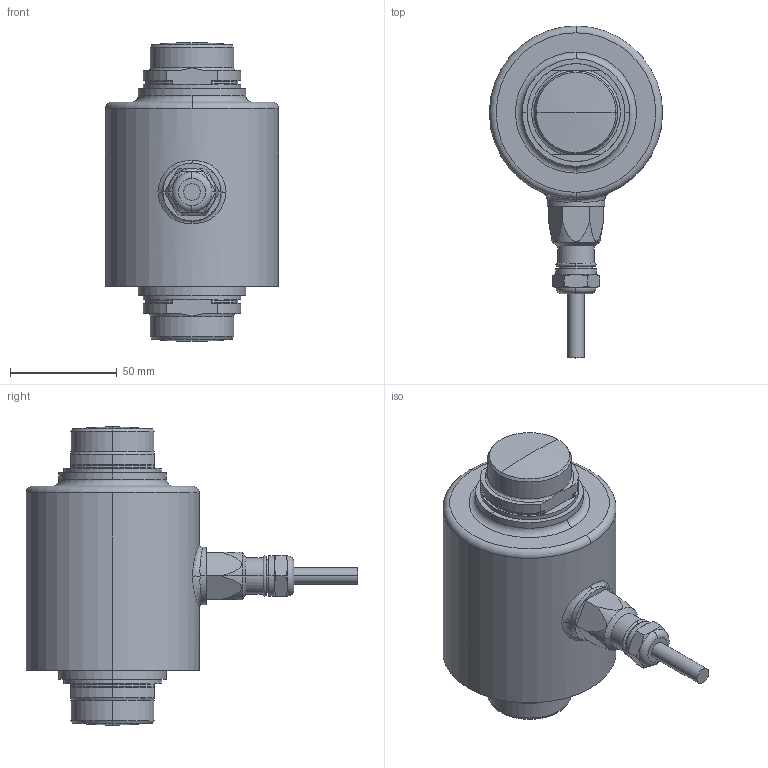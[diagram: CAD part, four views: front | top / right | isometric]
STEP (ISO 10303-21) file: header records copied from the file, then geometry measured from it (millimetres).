
FILE_DESCRIPTION (( 'STEP AP214' ), '1' );
FILE_NAME ('SM63-30t.STEP', '2010-12-16T14:53:48', ( 'D. Hüttmann' ), ( 'Microsoft' ), 'SwSTEP 2.0', 'SolidWorks 2010', '' );
FILE_SCHEMA (( 'AUTOMOTIVE_DESIGN' ));
Length unit declared in the file: millimetre
Products named in the file (1): SM63-30t
Bounding box: 81 x 155.17 x 139.7 mm (x, y, z)
Volume: 525778.5 mm3; surface area: 43596.2 mm2
Topology: 1 solids, 1 shells, 131 faces, 318 edges, 198 vertices
Faces by surface type: plane 45, cylinder 34, torus 22, cone 22, sphere 4, bspline 4
Entity records: 7217 total; most frequent: CARTESIAN_POINT 4131, DIRECTION 662, ORIENTED_EDGE 636, EDGE_CURVE 318, AXIS2_PLACEMENT_3D 270, VERTEX_POINT 198, CIRCLE 142, EDGE_LOOP 140
